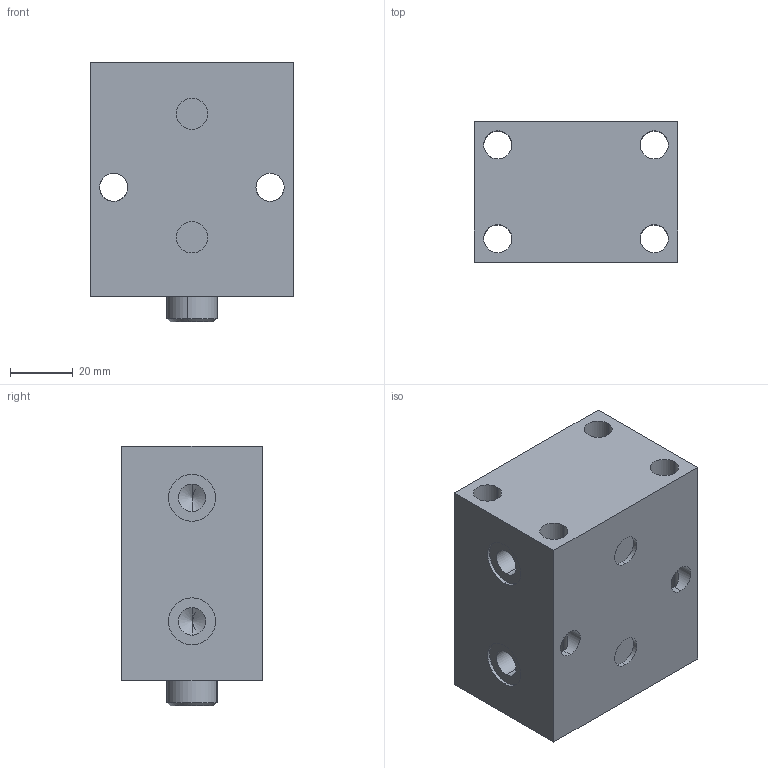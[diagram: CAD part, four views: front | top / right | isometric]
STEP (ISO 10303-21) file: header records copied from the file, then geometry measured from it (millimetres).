
FILE_DESCRIPTION (( 'STEP AP203' ), '1' );
FILE_NAME ('block cylinder B01C-125F.STEP', '2022-07-09T18:26:26', ( '' ), ( '' ), 'SwSTEP 2.0', 'SolidWorks 2017', '' );
FILE_SCHEMA (( 'CONFIG_CONTROL_DESIGN' ));
Length unit declared in the file: millimetre
Products named in the file (3): Body_125F; Piston_125F; block cylinder B01C-125F
Assembly tree (2 placements, depth 2):
  block cylinder B01C-125F
    Body_125F
    Piston_125F
Bounding box: 65 x 45 x 83 mm (x, y, z)
Volume: 202627.2 mm3; surface area: 38929 mm2
Topology: 2 solids, 2 shells, 226 faces, 607 edges, 399 vertices
Faces by surface type: plane 111, bspline 71, cylinder 36, cone 8
Entity records: 12050 total; most frequent: CARTESIAN_POINT 6550, ORIENTED_EDGE 1202, DIRECTION 821, EDGE_CURVE 601, VERTEX_POINT 399, LINE 369, VECTOR 369, EDGE_LOOP 266
